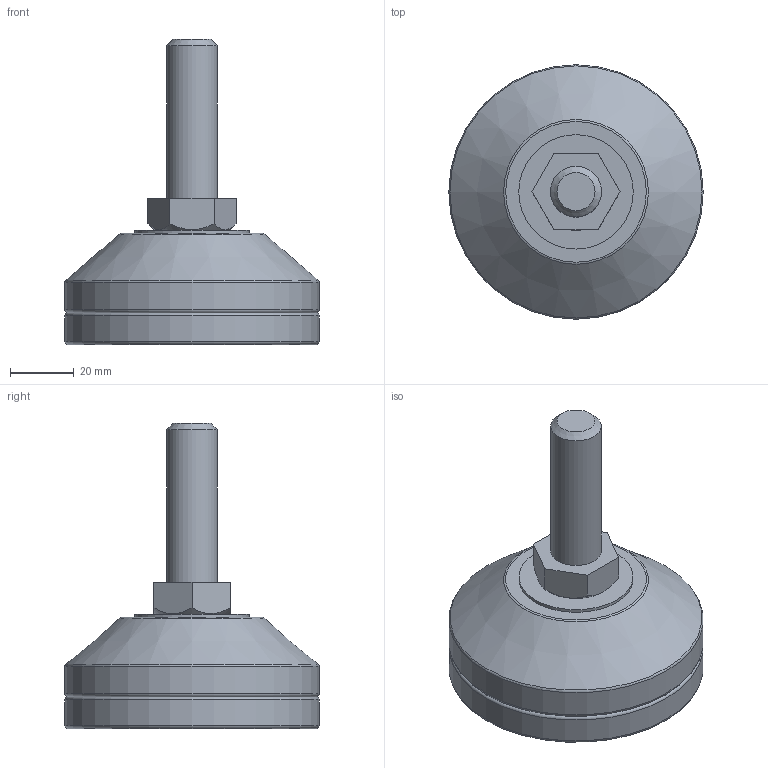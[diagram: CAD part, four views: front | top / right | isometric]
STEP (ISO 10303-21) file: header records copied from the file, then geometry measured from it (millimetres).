
FILE_DESCRIPTION(/* description */ (''),/* implementation_level */ '2;1');
FILE_NAME(/* name */ 'D:\조절자\FR\FR-M16-50L.stp',/* time_stamp */ '2016-03-14T14:39:08+09:00',/* author */ ('GS-DT-1-001'),/* organization */ (''),/* preprocessor_version */ 'ST-DEVELOPER v15.6',/* originating_system */ 'Autodesk Inventor LT ',/* authorisation */ '');
FILE_SCHEMA (('AUTOMOTIVE_DESIGN { 1 0 10303 214 3 1 1 }'));
Length unit declared in the file: millimetre
Products named in the file (1): FR-M16-50L
Bounding box: 80 x 80 x 96 mm (x, y, z)
Volume: 132851 mm3; surface area: 30101.6 mm2
Topology: 1 solids, 5 shells, 50 faces, 88 edges, 53 vertices
Faces by surface type: plane 21, cylinder 14, cone 9, torus 6
Full cylindrical faces by diameter (mm): 6.912 x1, 8 x1, 8.2 x1, 8.3 x1, 16 x2, 36 x1, 50 x1, 57 x1, 61 x1, 71 x1, 75 x1, 80 x2
Entity records: 1060 total; most frequent: DIRECTION 194, CARTESIAN_POINT 173, ORIENTED_EDGE 116, AXIS2_PLACEMENT_3D 91, EDGE_LOOP 88, EDGE_CURVE 58, VERTEX_POINT 52, FACE_OUTER_BOUND 50
